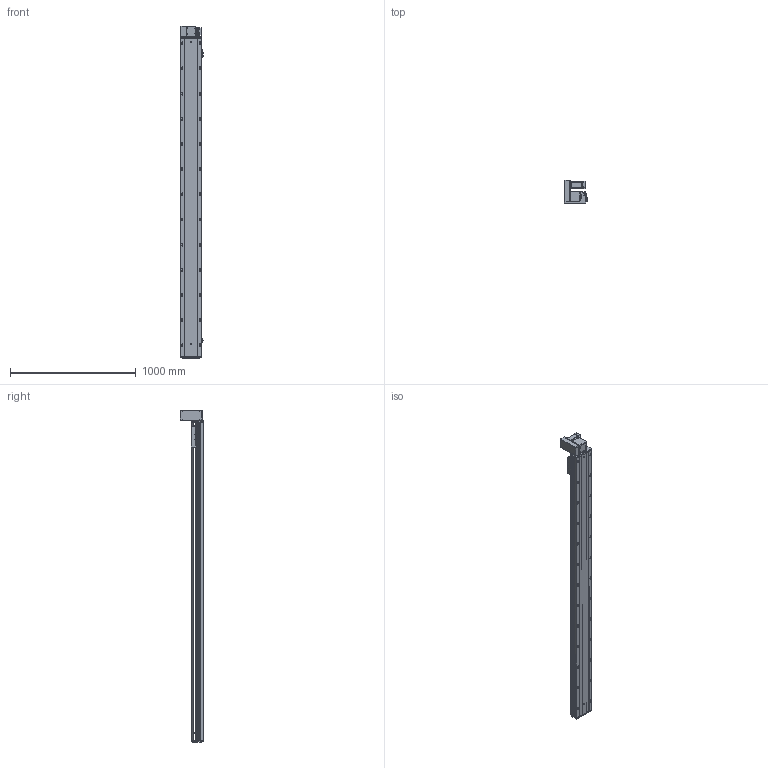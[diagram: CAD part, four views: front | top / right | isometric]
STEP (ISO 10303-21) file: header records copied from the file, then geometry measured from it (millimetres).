
FILE_DESCRIPTION (( 'STEP AP203' ), '1' );
FILE_NAME ('RY170-T-300-UL-P400W.SLDASM_2250.step', '2021-03-02T02:14:46', ( '盈信电脑' ), ( '东莞市道滘镇水果街19号' ), 'SwSTEP 2.0', 'SolidWorks 2012', '' );
FILE_SCHEMA (( 'CONFIG_CONTROL_DESIGN' ));
Products named in the file (18): RY170-T蹟翐M4; RY170-T-300-UL-P400W.SLDASM_2250; 15; RY170肮祭謫萇儂欶; RY120-T主同步轮轴承压盖; RY170同步轮电机安装板(400W); RY170-T肮祭湍揤踡輸1; RY170-T肮祭謫裔啣; 滅袉蝶18-10; RY170-T肮祭湍揤踡輸2; RY170肮祭謫ヶ裔啣; 覜茼ん672; RY170外置感应片(200共用）; RY170翋肮祭謫釱; RY170綴裔啣; RY170-T-300肮祭謫倰第菁釱-DL_2250; RY170-T-300肮祭謫倰第裔啣-DL_2250; RY170肮祭湍臏賑輸
Assembly tree (20 placements, depth 2):
  RY170-T-300-UL-P400W.SLDASM_2250
    RY170-T-300肮祭謫倰第菁釱-DL_2250
    RY170肮祭湍臏賑輸
    RY170-T-300肮祭謫倰第裔啣-DL_2250
    RY170綴裔啣
    覜茼ん672  x3
    RY170外置感应片(200共用）
    RY170肮祭謫ヶ裔啣
    RY170翋肮祭謫釱
    RY170-T肮祭湍揤踡輸1
    RY170-T肮祭湍揤踡輸2
    RY170-T肮祭謫裔啣
    滅袉蝶18-10  x2
    RY120-T主同步轮轴承压盖
    RY170肮祭謫萇儂欶
    RY170同步轮电机安装板(400W)
    RY170-T蹟翐M4
    15
Bounding box: 183.7 x 184 x 2638 mm (x, y, z)
Volume: 12090024.8 mm3; surface area: 4167565.8 mm2
Topology: 20 solids, 20 shells, 2893 faces, 8174 edges, 5191 vertices
Faces by surface type: cylinder 1386, plane 1157, cone 320, bspline 30
Entity records: 94000 total; most frequent: CARTESIAN_POINT 22058, ORIENTED_EDGE 14824, DIRECTION 14386, EDGE_CURVE 7412, AXIS2_PLACEMENT_3D 5121, VERTEX_POINT 4859, LINE 4144, VECTOR 4144
